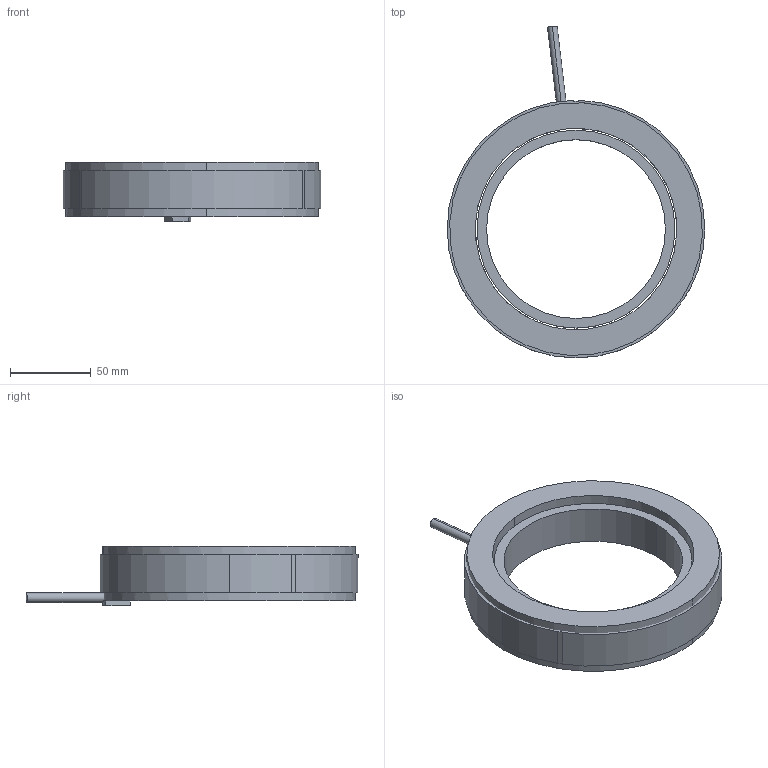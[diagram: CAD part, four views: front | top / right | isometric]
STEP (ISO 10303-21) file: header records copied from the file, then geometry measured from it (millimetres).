
FILE_DESCRIPTION (( 'STEP AP203' ), '1' );
FILE_NAME ('TM160-34 KIT 3D.STEP', '2021-06-21T06:59:43', ( '' ), ( '' ), 'SwSTEP 2.0', 'SolidWorks 2021', '' );
FILE_SCHEMA (( 'CONFIG_CONTROL_DESIGN' ));
Length unit declared in the file: millimetre
Products named in the file (1): TM160-34 KIT 3D
Bounding box: 160 x 206.16 x 37 mm (x, y, z)
Volume: 353057.6 mm3; surface area: 96866.9 mm2
Topology: 4 solids, 4 shells, 156 faces, 439 edges, 290 vertices
Faces by surface type: plane 84, cylinder 72
Entity records: 5158 total; most frequent: DIRECTION 901, CARTESIAN_POINT 886, ORIENTED_EDGE 878, EDGE_CURVE 439, AXIS2_PLACEMENT_3D 305, VECTOR 291, LINE 291, VERTEX_POINT 290
